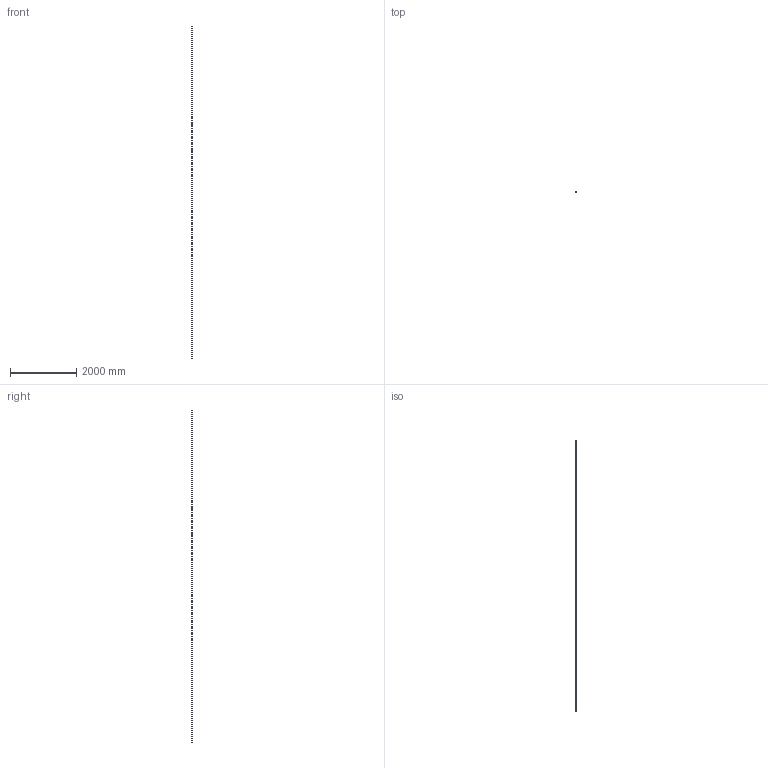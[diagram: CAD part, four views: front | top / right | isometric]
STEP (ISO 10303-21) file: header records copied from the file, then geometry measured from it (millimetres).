
FILE_DESCRIPTION((''),'2;1');
FILE_NAME('C:\Documents and Settings\古川典政\My Documents\Inventor\HP用\MasterData\ACCESSORY\M8\TY-6850.stp','2008-08-05T16:58:50',(''),(''),'Autodesk Inventor 2008','Autodesk Inventor 2008','');
FILE_SCHEMA(('CONFIG_CONTROL_DESIGN'));
Length unit declared in the file: millimetre
Products named in the file (1): TY-6850
Bounding box: 6.9 x 10.2 x 10000 mm (x, y, z)
Volume: 422350 mm3; surface area: 319763 mm2
Topology: 1 solids, 1 shells, 13 faces, 33 edges, 22 vertices
Faces by surface type: plane 13
Entity records: 404 total; most frequent: CARTESIAN_POINT 69, ORIENTED_EDGE 66, DIRECTION 61, VECTOR 33, LINE 33, EDGE_CURVE 33, VERTEX_POINT 22, AXIS2_PLACEMENT_3D 14
